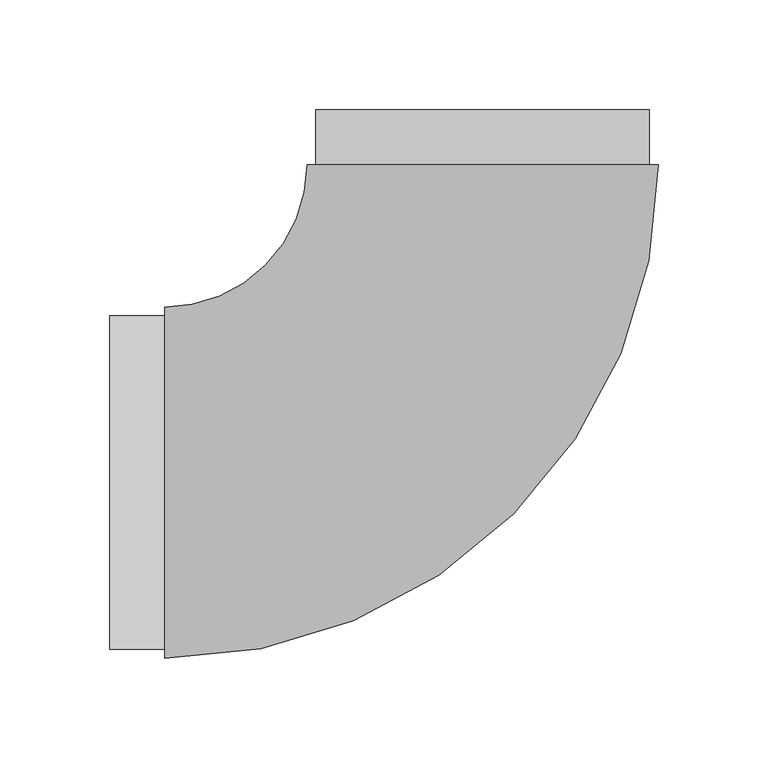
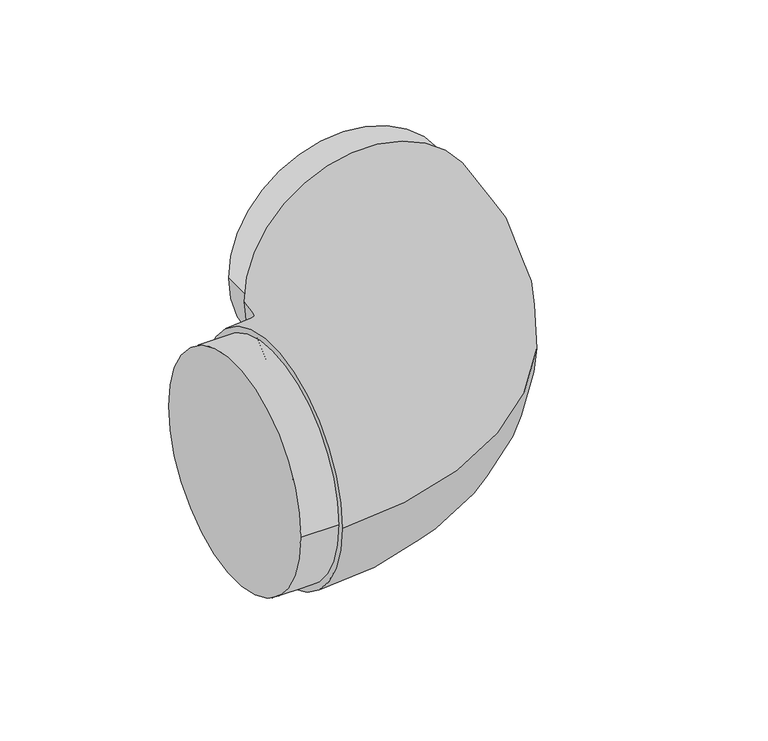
"""IFC4 building model written with IfcOpenShell, lengths in millimetres: pipe fitting geometry, Codo 90º Soldadura a Tope SDR 11 BluePipe : Estándar."""

from ifc_helpers import new_model, si_unit, point, frame, origin, origin_2d, place, context, project, spatial, circle_curve, ellipse_curve, trimmed, segment, composite_curve, outline, extrude, source, transform, mapped, element, save
from ifc_brep_helpers import plane_surface, revolved_surface, advanced_brep


def pipe_fitting_2828413b(model_context):
    return source(origin(), model_context, "Body", "SolidModel", [
        extrude(outline(composite_curve([segment(trimmed(circle_curve(origin_2d(), 76.0), [point((0.0, -76.0))], [point((0.0, 76.0))], False, "CARTESIAN"), True, "CONTINUOUS"), segment(trimmed(circle_curve(origin_2d(), 76.0), [point((0.0, 76.0))], [point((0.0, -76.0))], False, "CARTESIAN"), True, "CONTINUOUS")], self_intersect=False)), frame((0.0, 145.0, 0.0), z_axis=(0.0, 1.0, 0.0), x_axis=(0.0, 0.0, 1.0)), (0.0, 0.0, 1.0), 25.0),
        extrude(outline(composite_curve([segment(trimmed(circle_curve(origin_2d(), 76.0), [point((-76.0, 0.0))], [point((76.0, 0.0))], False, "CARTESIAN"), True, "CONTINUOUS"), segment(trimmed(circle_curve(origin_2d(), 76.0), [point((76.0, 0.0))], [point((-76.0, 0.0))], False, "CARTESIAN"), True, "CONTINUOUS")], self_intersect=False)), frame((-170.0, 0.0, 0.0), z_axis=(1.0, 0.0, 0.0), x_axis=(0.0, 1.0, 0.0)), (0.0, 0.0, 1.0), 25.0),
        advanced_brep(
        [(-145.0, -80.0, 0.0), (-145.0, 80.0, 0.0), (80.0, 145.0, 0.0), (-80.0, 145.0, 0.0)],
        [
            (0, 1, circle_curve(frame((-145.0, 0.0, 0.0), z_axis=(-1.0, 0.0, 0.0), x_axis=(0.0, 1.0, 0.0)), 80.0)),
            (1, 0, circle_curve(frame((-145.0, 0.0, 0.0), z_axis=(-1.0, 0.0, 0.0), x_axis=(0.0, 1.0, 0.0)), 80.0)),
            (2, 3, circle_curve(frame((0.0, 145.0, 0.0), z_axis=(0.0, 1.0, 0.0), x_axis=(-1.0, 0.0, 0.0)), 80.0)),
            (3, 2, circle_curve(frame((0.0, 145.0, 0.0), z_axis=(0.0, 1.0, 0.0), x_axis=(-1.0, 0.0, 0.0)), 80.0)),
            (3, 1, circle_curve(frame((-145.0, 145.0, 0.0), z_axis=(0.0, 0.0, -1.0), x_axis=(0.0, -1.0, 0.0)), 65.0)),
            (0, 2, circle_curve(frame((-145.0, 145.0, 0.0), z_axis=(0.0, 0.0, 1.0), x_axis=(0.0, -1.0, 0.0)), 225.0)),
        ],
        [
            plane_surface(frame((-145.0, 0.0, 0.0), z_axis=(-1.0, 0.0, 0.0), x_axis=(0.0, 0.0, 1.0))),
            plane_surface(frame((0.0, 145.0, 0.0), z_axis=(0.0, 1.0, 0.0), x_axis=(0.0, 0.0, 1.0))),
            revolved_surface(trimmed(ellipse_curve(frame((-145.0, 0.0, 0.0), z_axis=(-1.0, 0.0, 0.0), x_axis=(0.0, 1.0, 0.0)), 80.0, 80.0), [point((-145.0, -80.0, 0.0))], [point((-145.0, 80.0, 0.0))], True, "CARTESIAN"), (-145.0, 145.0, 0.0), (0.0, 0.0, 1.0)),
            revolved_surface(trimmed(ellipse_curve(frame((-145.0, 0.0, 0.0), z_axis=(-1.0, 0.0, 0.0), x_axis=(0.0, 1.0, 0.0)), 80.0, 80.0), [point((-145.0, 80.0, 0.0))], [point((-145.0, -80.0, 0.0))], True, "CARTESIAN"), (-145.0, 145.0, 0.0), (0.0, 0.0, 1.0)),
        ],
        [
            (0, [[1, 2]]),
            (1, [[3, 4]]),
            (2, [[5, -1, 6, -4]]),
            (3, [[-6, -2, -5, -3]]),
        ],
    ),
    ])


if __name__ == "__main__":
    model = new_model("IFC4")
    model_context = context("Model", 3, world=origin())
    ifc_project = project(units=[si_unit("LENGTHUNIT", "METRE", prefix="MILLI")], contexts=[model_context])
    site = spatial("IfcSite", under=ifc_project)
    building = spatial("IfcBuilding", under=site)
    placement = place(None, origin())
    pipe_fitting_shape = pipe_fitting_2828413b(model_context)
    element("IfcPipeFitting", 1, ObjectType="Codo 90º Soldadura a Tope SDR 11 BluePipe : Estándar", at=placement, inside=building, context=model_context, shape_type="MappedRepresentation", body=[
        mapped(pipe_fitting_shape, transform((0.0, 0.0, 0.0), x_axis=(1.0, 0.0, 0.0), y_axis=(0.0, 1.0, 0.0), z_axis=(0.0, 0.0, 1.0))),
    ])
    save(model, "model.ifc")
